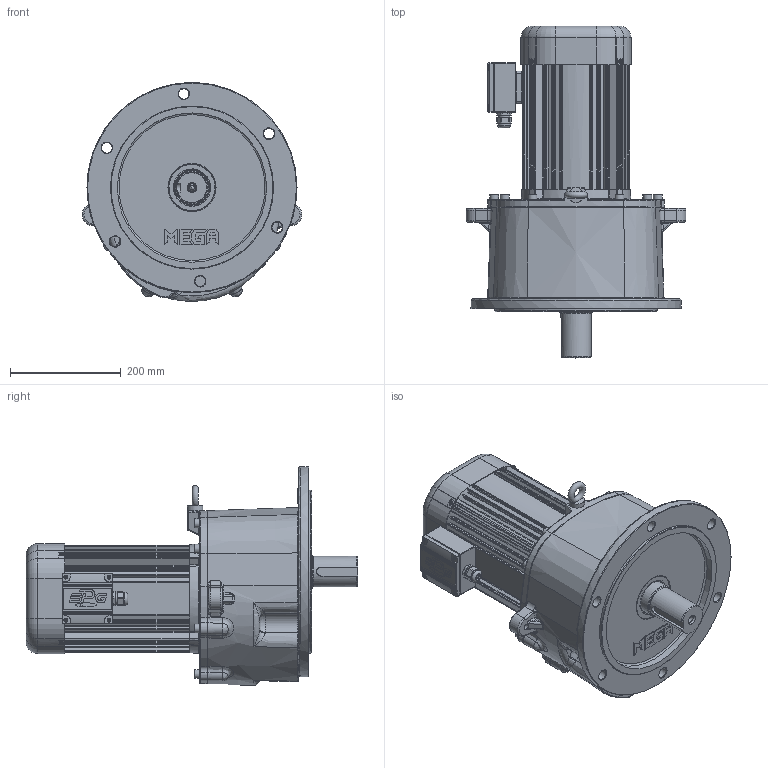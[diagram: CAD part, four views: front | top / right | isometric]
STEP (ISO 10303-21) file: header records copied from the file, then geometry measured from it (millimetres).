
FILE_DESCRIPTION(/* description */ (''),/* implementation_level */ '2;1');
FILE_NAME(/* name */ 'Z:\동력 3D 파일\PMK205_2.2kW_3D.stp',/* time_stamp */ '2021-12-01T09:17:05+09:00',/* author */ ('jaebok'),/* organization */ (''),/* preprocessor_version */ 'ST-DEVELOPER v18.1',/* originating_system */ 'Autodesk Inventor 2022',/* authorisation */ '');
FILE_SCHEMA (('AUTOMOTIVE_DESIGN { 1 0 10303 214 3 1 1 }'));
Products named in the file (1): 부품10
Bounding box: 397 x 600.5 x 395.96 mm (x, y, z)
Volume: 9852518.2 mm3; surface area: 1667879.5 mm2
Topology: 2 solids, 41 shells, 3418 faces, 8598 edges, 5199 vertices
Faces by surface type: plane 1119, cylinder 911, bspline 701, torus 357, cone 213, sphere 117
Full cylindrical faces by diameter (mm): 3.25 x1, 3.5 x4, 3.6 x4, 4 x21, 5 x13, 6 x5, 6.647 x12, 7 x8, 8 x5, 8.376 x1, 9 x4, 10 x9, 10.106 x3, 11 x8, 12 x1, 12.5 x1, 13.835 x1, 15 x1, 16 x8, 19 x6, 20 x2, 21 x1, 23.6 x1, 24 x1, 25 x1, 28 x1, 31 x1, 36 x1, 45 x1, 48 x1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
Entity records: 133055 total; most frequent: CARTESIAN_POINT 51378, ORIENTED_EDGE 16842, DIRECTION 15960, EDGE_CURVE 8421, AXIS2_PLACEMENT_3D 6419, VERTEX_POINT 5199, EDGE_LOOP 3676, CIRCLE 3553
